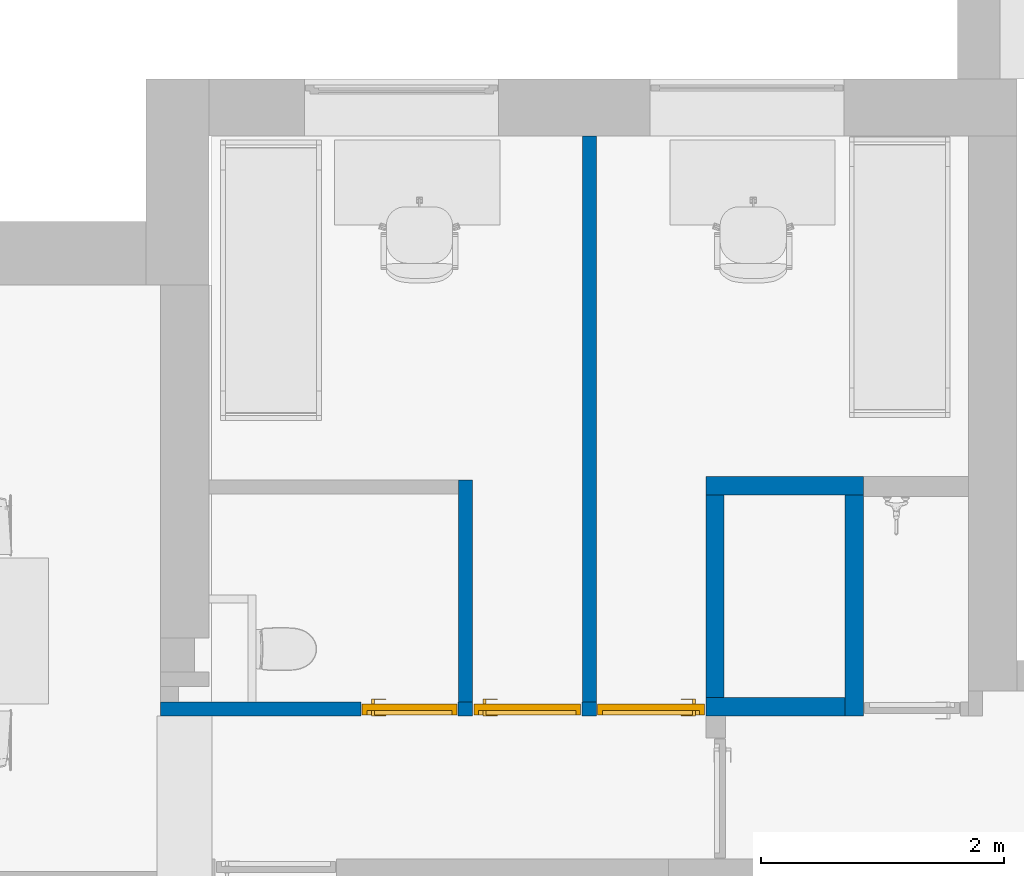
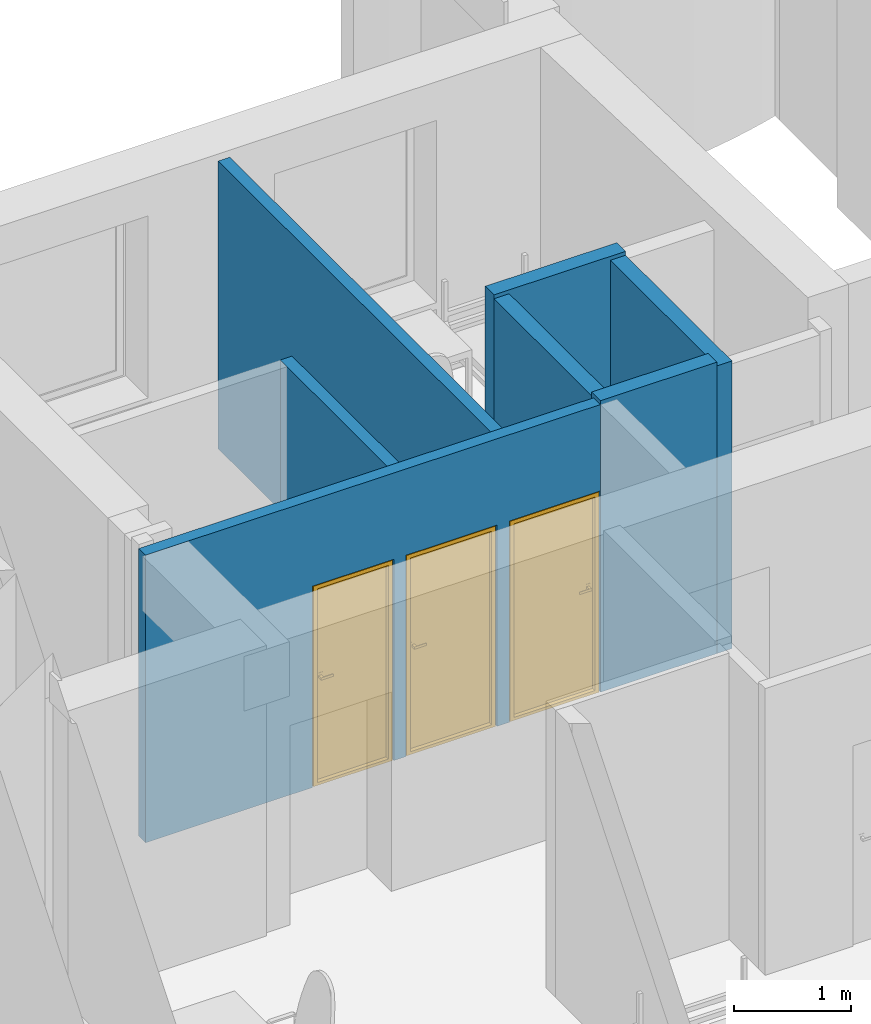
# One storey, part 5 of 46: 7 walls, 3 doors, 5 openings.
"""IFC2X3 building model written with IfcOpenShell, lengths in millimetres."""

from ifc_helpers import new_model, entity, si_unit, converted_unit, derived_unit, direction, frame, frame_2d, origin, place, context, subcontext, project, spatial, polyline, rectangle, extrude, clip, bounded_halfspace, faceted_brep, source, transform, mapped, material, material_list, layer, layer_set, layer_usage, type_object, type_shapes, element, fill, save


model = new_model("IFC2X3")

# Units and contexts
model_context = context("Model", 3, precision=0.01, world=origin(), true_north=direction((6.12303176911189e-17, 1.0)))
body_context = subcontext(model_context, "Body", "Model", "MODEL_VIEW")
ifc_project = project(units=[si_unit("LENGTHUNIT", "METRE", prefix="MILLI"), si_unit("AREAUNIT", "SQUARE_METRE"), si_unit("VOLUMEUNIT", "CUBIC_METRE"), converted_unit("PLANEANGLEUNIT", "DEGREE", entity("IfcRatioMeasure", 0.0174532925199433), si_unit("PLANEANGLEUNIT", "RADIAN"), dimensions=[0, 0, 0, 0, 0, 0, 0]), si_unit("MASSUNIT", "GRAM", prefix="KILO"), derived_unit("MASSDENSITYUNIT", [(si_unit("MASSUNIT", "GRAM", prefix="KILO"), 1), (si_unit("LENGTHUNIT", "METRE"), -3)]), si_unit("TIMEUNIT", "SECOND"), si_unit("FREQUENCYUNIT", "HERTZ"), si_unit("THERMODYNAMICTEMPERATUREUNIT", "DEGREE_CELSIUS"), derived_unit("THERMALTRANSMITTANCEUNIT", [(si_unit("MASSUNIT", "GRAM", prefix="KILO"), 1), (si_unit("THERMODYNAMICTEMPERATUREUNIT", "KELVIN"), -1), (si_unit("TIMEUNIT", "SECOND"), -3)]), derived_unit("VOLUMETRICFLOWRATEUNIT", [(si_unit("LENGTHUNIT", "METRE"), 3), (si_unit("TIMEUNIT", "SECOND"), -1)]), si_unit("ELECTRICCURRENTUNIT", "AMPERE"), si_unit("ELECTRICVOLTAGEUNIT", "VOLT"), si_unit("POWERUNIT", "WATT"), si_unit("FORCEUNIT", "NEWTON", prefix="KILO"), si_unit("ILLUMINANCEUNIT", "LUX"), si_unit("LUMINOUSFLUXUNIT", "LUMEN"), si_unit("LUMINOUSINTENSITYUNIT", "CANDELA"), derived_unit("USERDEFINED", [(si_unit("MASSUNIT", "GRAM", prefix="KILO"), -1), (si_unit("LENGTHUNIT", "METRE"), -2), (si_unit("TIMEUNIT", "SECOND"), 3), (si_unit("LUMINOUSFLUXUNIT", "LUMEN"), 1)]), derived_unit("LINEARVELOCITYUNIT", [(si_unit("LENGTHUNIT", "METRE"), 1), (si_unit("TIMEUNIT", "SECOND"), -1)]), si_unit("PRESSUREUNIT", "PASCAL"), derived_unit("USERDEFINED", [(si_unit("LENGTHUNIT", "METRE"), -2), (si_unit("MASSUNIT", "GRAM", prefix="KILO"), 1), (si_unit("TIMEUNIT", "SECOND"), -2)]), derived_unit("LINEARFORCEUNIT", [(si_unit("MASSUNIT", "GRAM", prefix="KILO"), 1), (si_unit("LENGTHUNIT", "METRE"), 1), (si_unit("TIMEUNIT", "SECOND"), -2), (si_unit("LENGTHUNIT", "METRE"), -1)]), derived_unit("PLANARFORCEUNIT", [(si_unit("MASSUNIT", "GRAM", prefix="KILO"), 1), (si_unit("LENGTHUNIT", "METRE"), 1), (si_unit("TIMEUNIT", "SECOND"), -2), (si_unit("LENGTHUNIT", "METRE"), -2)])], contexts=[model_context])

# Site, building, storey
site_placement = place(None, origin())
site = spatial("IfcSite", under=ifc_project, at=site_placement, Name="Default", CompositionType="ELEMENT")
building_placement = place(site_placement, origin())
building = spatial("IfcBuilding", under=site, at=building_placement, Name="SMA ARH", CompositionType="ELEMENT")
storey_placement = place(building_placement, frame((0.0, 0.0, 9910.0)))
storey = spatial("IfcBuildingStorey", under=building, at=storey_placement, Name="4 Korrus", CompositionType="ELEMENT", Elevation=9909.9999999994)

# Wall
ifc_material_1 = material(Name="EST. Müüritis. Väikeplokk. Kergkruusplokk")
ifc_layer_1 = layer(ifc_material_1, 150.0)
ifc_layer_set_1 = layer_set([ifc_layer_1], Name="Basic Wall:SS-02_ 150mm šahtide vahesein")
ifc_layer_usage_1 = layer_usage(ifc_layer_set_1, "AXIS2", "POSITIVE", -75.0)
wall_type_1 = type_object("IfcWallType", Name="Basic Wall:SS-02_ 150mm šahtide vahesein", PredefinedType="STANDARD", material=ifc_layer_set_1)
wall_1_placement = place(storey_placement, frame((6235.32130046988, 9595.0, 0.0)))
element("IfcWallStandardCase", 1, at=wall_1_placement, inside=storey, type_object=wall_type_1, material=ifc_layer_usage_1, Name="Basic Wall:SS-02_ 150mm šahtide vahesein", ObjectType="Basic Wall:SS-02_ 150mm šahtide vahesein", context=body_context, shape_type="SweptSolid", body=[
    extrude(rectangle(XDim=1298.40364972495, YDim=150.000000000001, at=frame_2d((649.201824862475, -4.9737991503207e-14), x_axis=(-1.0, 0.0))), origin(), (0.0, 0.0, 1.0), 3041.0500000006),
])

# Wall, opening
ifc_layer_usage_2 = layer_usage(ifc_layer_set_1, "AXIS2", "POSITIVE", -75.0)
wall_2_placement = place(storey_placement, frame((7458.72495019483, 9520.0, 0.0), z_axis=(0.0, 0.0, 1.0), x_axis=(0.0, -1.0, 0.0)))
wall_2 = element("IfcWallStandardCase", 2, at=wall_2_placement, inside=storey, type_object=wall_type_1, material=ifc_layer_usage_2, Name="Basic Wall:SS-02_ 150mm šahtide vahesein", ObjectType="Basic Wall:SS-02_ 150mm šahtide vahesein", context=body_context, shape_type="Clipping", body=[
    clip(extrude(rectangle(XDim=1819.99999999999, YDim=150.000000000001, at=frame_2d((909.999999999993, 1.13686837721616e-13), x_axis=(-1.0, 0.0))), origin(), (0.0, 0.0, 1.0), 3001.0500000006), bounded_halfspace(frame((0.0, -75.0, 3001.0500000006), z_axis=(0.0, 0.0, -1.0), x_axis=(-1.0, 0.0, 0.0)), True, frame((0.0, -75.0, 3001.0500000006)), polyline([(0.0, 0.0), (1820.0, 0.0), (1820.0, 150.0), (0.0, 150.0), (0.0, 0.0)]))),
])
opening_1_placement = place(wall_2_placement, origin())
element("IfcOpeningElement", 3, at=opening_1_placement, cuts=wall_2, Name="Basic Wall:SS-02_ 150mm šahtide vahesein", ObjectType="Opening", context=body_context, shape_type="SweptSolid", body=[
    extrude(rectangle(XDim=2099.99999999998, YDim=116.0, at=frame_2d((0.0, 1.02318153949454e-12), x_axis=(0.0, 1.0))), frame((1762.0, 75.0, 1050.0), z_axis=(0.0, 1.0, 0.0), x_axis=(1.0, 0.0, 0.0)), (0.0, 0.0, 1.0), 800.0),
])

ifc_layer_usage_3 = layer_usage(ifc_layer_set_1, "AXIS2", "POSITIVE", -75.0)
wall_3_placement = place(storey_placement, frame((7383.72495019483, 7775.0, 0.0), z_axis=(0.0, 0.0, 1.0), x_axis=(-1.0, 0.0, 0.0)))
wall_3 = element("IfcWallStandardCase", 4, at=wall_3_placement, inside=storey, type_object=wall_type_1, material=ifc_layer_usage_3, Name="Basic Wall:SS-02_ 150mm šahtide vahesein", ObjectType="Basic Wall:SS-02_ 150mm šahtide vahesein", context=body_context, shape_type="SweptSolid", body=[
    extrude(rectangle(XDim=1148.40364972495, YDim=150.000000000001, at=frame_2d((574.201824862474, 2.41584530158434e-13), x_axis=(-1.0, 0.0))), origin(), (0.0, 0.0, 1.0), 3041.0500000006),
])
opening_2_placement = place(wall_3_placement, origin())
element("IfcOpeningElement", 5, at=opening_2_placement, cuts=wall_3, Name="Basic Wall:SS-02_ 150mm šahtide vahesein", ObjectType="Opening", context=body_context, shape_type="SweptSolid", body=[
    extrude(rectangle(XDim=2099.99999999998, YDim=900.0, at=frame_2d((5.40012479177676e-13, -1.02318153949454e-12), x_axis=(0.0, 1.0))), frame((1598.40364972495, -1449.0, 1050.0), z_axis=(0.0, 1.0, 0.0), x_axis=(-1.0, 0.0, 0.0)), (0.0, 0.0, 1.0), 3048.0),
])

# Wall
ifc_layer_usage_4 = layer_usage(ifc_layer_set_1, "AXIS2", "POSITIVE", -75.0)
wall_4_placement = place(storey_placement, frame((6310.32130046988, 7850.0, 0.0), z_axis=(0.0, 0.0, 1.0), x_axis=(0.0, 1.0, 0.0)))
element("IfcWallStandardCase", 6, at=wall_4_placement, inside=storey, type_object=wall_type_1, material=ifc_layer_usage_4, Name="Basic Wall:SS-02_ 150mm šahtide vahesein", ObjectType="Basic Wall:SS-02_ 150mm šahtide vahesein", context=body_context, shape_type="Clipping", body=[
    clip(extrude(rectangle(XDim=1669.99999999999, YDim=150.000000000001, at=frame_2d((834.999999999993, 0.0), x_axis=(-1.0, 0.0))), origin(), (0.0, 0.0, 1.0), 3001.0500000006), bounded_halfspace(frame((0.0, -75.0, 3001.0500000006), z_axis=(0.0, 0.0, -1.0), x_axis=(1.0, 0.0, 0.0)), True, frame((0.0, -75.0, 3001.0500000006)), polyline([(0.0, 0.0), (1670.0, 0.0), (1670.0, 150.0), (0.0, 150.0), (0.0, 0.0)]))),
])

# Wall, openings, doors
ifc_material_2 = material(Name="EST. Ehitusplaat. Kipsplaat")
ifc_layer_2 = layer(ifc_material_2, 12.5)
ifc_layer_3 = layer(ifc_material_2, 12.5)
ifc_material_3 = material(Name="EST. Soojustus. Mineraalvill. Default")
ifc_layer_4 = layer(ifc_material_3, 66.0)
ifc_layer_5 = layer(ifc_material_2, 12.5)
ifc_layer_6 = layer(ifc_material_2, 12.5)
ifc_layer_set_2 = layer_set([ifc_layer_2, ifc_layer_3, ifc_layer_4, ifc_layer_5, ifc_layer_6], Name="Basic Wall:SS-05_Kips, 66mm metallkarkass")
ifc_layer_usage_5 = layer_usage(ifc_layer_set_2, "AXIS2", "NEGATIVE", 58.0)
wall_type_2 = type_object("IfcWallType", Name="Basic Wall:SS-05_Kips, 66mm metallkarkass", PredefinedType="STANDARD", material=ifc_layer_set_2)
wall_5_placement = place(storey_placement, frame((6235.32130046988, 7758.0, 0.0), z_axis=(0.0, 0.0, 1.0), x_axis=(-1.0, 0.0, 0.0)))
wall_5 = element("IfcWallStandardCase", 7, at=wall_5_placement, inside=storey, type_object=wall_type_2, material=ifc_layer_usage_5, Name="Basic Wall:SS-05_Kips, 66mm metallkarkass", ObjectType="Basic Wall:SS-05_Kips, 66mm metallkarkass", context=body_context, shape_type="SweptSolid", body=[
    extrude(rectangle(XDim=4490.32130046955, YDim=116.0, at=frame_2d((2245.16065023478, 0.0), x_axis=(-1.0, 0.0))), origin(), (0.0, 0.0, 1.0), 3001.0500000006),
])
opening_3_placement = place(wall_5_placement, frame((900.0, 58.0, 0.0)))
opening_3 = element("IfcOpeningElement", 8, at=opening_3_placement, cuts=wall_5, Name="SMA_D01, 1-poolne:SU-P-05 - 900x2100 TUBA:1", ObjectType="Opening", context=body_context, shape_type="SweptSolid", body=[
    extrude(rectangle(XDim=2099.99999999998, YDim=900.0, at=frame_2d((1049.99999999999, 450.0), x_axis=(1.0, 0.0))), frame((0.0, 0.0, 0.0), z_axis=(0.0, -1.0, 0.0), x_axis=(0.0, 0.0, 1.0)), (0.0, 0.0, 1.0), 116.0),
])
opening_4_placement = place(wall_5_placement, frame((1920.0, 58.0, 0.0)))
opening_4 = element("IfcOpeningElement", 9, at=opening_4_placement, cuts=wall_5, Name="SMA_D01, 1-poolne:SU-P-05 - 900x2100 TUBA:1", ObjectType="Opening", context=body_context, shape_type="SweptSolid", body=[
    extrude(rectangle(XDim=2099.99999999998, YDim=900.0, at=frame_2d((1049.99999999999, 450.0), x_axis=(1.0, 0.0))), frame((0.0, 0.0, 0.0), z_axis=(0.0, -1.0, 0.0), x_axis=(0.0, 0.0, 1.0)), (0.0, 0.0, 1.0), 116.0),
])
opening_5_placement = place(wall_5_placement, frame((2840.0, 58.0, 0.0)))
opening_5 = element("IfcOpeningElement", 10, at=opening_5_placement, cuts=wall_5, Name="SMA_D01, 1-poolne:SU-P-06 - 800x2100 DUŠŠ:1", ObjectType="Opening", context=body_context, shape_type="SweptSolid", body=[
    extrude(rectangle(XDim=2099.99999999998, YDim=800.0, at=frame_2d((1049.99999999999, 400.0), x_axis=(1.0, 0.0))), frame((0.0, 0.0, 0.0), z_axis=(0.0, -1.0, 0.0), x_axis=(0.0, 0.0, 1.0)), (0.0, 0.0, 1.0), 116.0),
])
ifc_material_4 = material(Name="EST. Metall. Alumiinium. Värvitud. RAL7023 (Concrete grey)")
ifc_material_5 = material(Name="<Unnamed>")
ifc_material_6 = material(Name="EST. Klaas. 3x. Default")
ifc_material_list_1 = material_list([ifc_material_4, ifc_material_5, ifc_material_4, ifc_material_5, ifc_material_5, ifc_material_6, ifc_material_4])
door_style_1 = type_object("IfcDoorStyle", Name="SMA_D01, 1-poolne:SU-P-05 - 900x2100 TUBA", ConstructionType="NOTDEFINED", OperationType="SINGLE_SWING_LEFT", ParameterTakesPrecedence=False, Sizeable=False, material=ifc_material_list_1)
shared_shape_1 = source(origin(), body_context, "Body", "Brep", [
    faceted_brep([(790.0, 6.0, 1112.5), (695.0, 6.0, 1112.5), (695.0, 1.0, 1112.5), (815.0, 1.0, 1112.5), (815.0, 44.0, 1112.5), (790.0, 44.0, 1112.5), (790.0, 6.0, 1087.5), (790.0, 44.0, 1087.5), (815.0, 44.0, 1087.5), (815.0, 1.0, 1087.5), (695.0, 1.0, 1087.5), (695.0, 6.0, 1087.5)], [[[0, 1, 2, 3, 4, 5]], [[6, 7, 8, 9, 10, 11]], [[5, 7, 6, 0]], [[4, 8, 7, 5]], [[3, 9, 8, 4]], [[2, 10, 9, 3]], [[1, 11, 10, 2]], [[0, 6, 11, 1]]]),
    faceted_brep([(777.500000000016, 44.0, 1137.5), (827.500000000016, 44.0, 1137.5), (827.500000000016, 46.0, 1137.5), (777.500000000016, 46.0, 1137.5), (777.500000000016, 44.0, 1017.5), (777.500000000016, 46.0, 1017.5), (827.500000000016, 46.0, 1017.5), (827.500000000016, 44.0, 1017.5)], [[[0, 1, 2, 3]], [[4, 5, 6, 7]], [[3, 5, 4, 0]], [[2, 6, 5, 3]], [[1, 7, 6, 2]], [[0, 4, 7, 1]]]),
    faceted_brep([(790.0, 136.0, 1112.5), (790.0, 98.0, 1112.5), (815.0, 98.0, 1112.5), (815.0, 141.0, 1112.5), (695.0, 141.0, 1112.5), (695.0, 136.0, 1112.5), (790.0, 136.0, 1087.5), (695.0, 136.0, 1087.5), (695.0, 141.0, 1087.5), (815.0, 141.0, 1087.5), (815.0, 98.0, 1087.5), (790.0, 98.0, 1087.5)], [[[0, 1, 2, 3, 4, 5]], [[6, 7, 8, 9, 10, 11]], [[1, 0, 6, 11]], [[2, 1, 11, 10]], [[3, 2, 10, 9]], [[4, 3, 9, 8]], [[5, 4, 8, 7]], [[0, 5, 7, 6]]]),
    faceted_brep([(777.500000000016, 98.0, 1137.5), (777.500000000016, 96.0, 1137.5), (827.500000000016, 96.0, 1137.5), (827.500000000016, 98.0, 1137.5), (777.500000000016, 98.0, 1017.5), (827.500000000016, 98.0, 1017.5), (827.500000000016, 96.0, 1017.5), (777.500000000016, 96.0, 1017.5)], [[[0, 1, 2, 3]], [[4, 5, 6, 7]], [[1, 0, 4, 7]], [[2, 1, 7, 6]], [[3, 2, 6, 5]], [[0, 3, 5, 4]]]),
    faceted_brep([(50.0, 6.0, 30.0), (50.0, 46.0, 30.0), (50.0, 46.0, 20.0), (50.0, 46.0, 0.0), (50.0, 6.0, 0.0), (850.0, 6.0, 30.0), (850.0, 6.0, 0.0), (850.0, 46.0, 0.0), (850.0, 46.0, 20.0), (850.0, 46.0, 30.0), (35.0, 46.0, 0.0), (35.0, 96.0, 0.0), (865.0, 96.0, 0.0), (865.0, 46.0, 0.0), (35.0, 96.0, 20.0), (35.0, 46.0, 20.0), (865.0, 96.0, 20.0), (865.0, 46.0, 20.0)], [[[0, 1, 2, 3, 4]], [[5, 6, 7, 8, 9]], [[4, 6, 5, 0]], [[3, 10, 11, 12, 13, 7, 6, 4]], [[9, 8, 2, 1]], [[0, 5, 9, 1]], [[14, 11, 10, 15]], [[16, 17, 13, 12]], [[15, 2, 8, 17, 16, 14]], [[10, 3, 2, 15]], [[14, 16, 12, 11]], [[17, 8, 7, 13]]]),
    faceted_brep([(10.0, 6.0, 0.0), (10.0, 96.0, 0.0), (35.0, 96.0, 0.0), (35.0, 46.0, 0.0), (50.0, 46.0, 0.0), (50.0, 6.0, 0.0), (50.0, 6.0, 2050.0), (850.0, 6.0, 2050.0), (850.0, 6.0, 0.0), (890.0, 6.0, 0.0), (890.0, 6.0, 2090.0), (10.0, 6.0, 2090.0), (50.0, 46.0, 2050.0), (35.0, 46.0, 2065.0), (865.0, 46.0, 2065.0), (865.0, 46.0, 0.0), (850.0, 46.0, 0.0), (850.0, 46.0, 2050.0), (35.0, 96.0, 2065.0), (10.0, 96.0, 2090.0), (890.0, 96.0, 2090.0), (890.0, 96.0, 0.0), (865.0, 96.0, 0.0), (865.0, 96.0, 2065.0)], [[[0, 1, 2, 3, 4, 5]], [[5, 6, 7, 8, 9, 10, 11, 0]], [[4, 12, 6, 5]], [[3, 13, 14, 15, 16, 17, 12, 4]], [[2, 18, 13, 3]], [[1, 19, 20, 21, 22, 23, 18, 2]], [[0, 11, 19, 1]], [[9, 21, 20, 10]], [[8, 16, 15, 22, 21, 9]], [[7, 17, 16, 8]], [[14, 23, 22, 15]], [[6, 12, 17, 7]], [[13, 18, 23, 14]], [[10, 20, 19, 11]]]),
    faceted_brep([(865.0, 46.0, 2065.0), (35.0, 46.0, 2065.0), (35.0, 46.0, 20.0), (865.0, 46.0, 20.0), (865.0, 96.0, 2065.0), (865.0, 96.0, 20.0), (35.0, 96.0, 20.0), (35.0, 96.0, 2065.0)], [[[0, 1, 2, 3]], [[4, 5, 6, 7]], [[3, 5, 4, 0]], [[2, 6, 5, 3]], [[1, 7, 6, 2]], [[0, 4, 7, 1]]]),
])
type_shapes(door_style_1, [shared_shape_1])
door_1_placement = place(opening_3_placement, frame((0.0, 0.0, 0.0), z_axis=(0.0, 0.0, 1.0), x_axis=(-1.0, 0.0, 0.0)))
door_1 = element("IfcDoor", 11, at=door_1_placement, inside=storey, type_object=door_style_1, material=ifc_material_4, Name="SMA_D01, 1-poolne:SU-P-05 - 900x2100 TUBA", ObjectType="SMA_D01, 1-poolne:SU-P-05 - 900x2100 TUBA", OverallHeight=2099.99999999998, OverallWidth=900.0, context=body_context, shape_type="MappedRepresentation", body=[
    mapped(shared_shape_1, transform((0.0, 0.0, 0.0), scale=1.0)),
])
fill(opening_3, door_1)
ifc_material_list_2 = material_list([ifc_material_5, ifc_material_6, ifc_material_5, ifc_material_4, ifc_material_4, ifc_material_4, ifc_material_5])
door_style_2 = type_object("IfcDoorStyle", Name="SMA_D01, 1-poolne:SU-P-05 - 900x2100 TUBA", ConstructionType="NOTDEFINED", OperationType="SINGLE_SWING_RIGHT", ParameterTakesPrecedence=False, Sizeable=False, material=ifc_material_list_2)
shared_shape_2 = source(origin(), body_context, "Body", "Brep", [
    faceted_brep([(110.0, 6.0, 1112.5), (110.0, 44.0, 1112.5), (85.0, 44.0, 1112.5), (85.0, 1.0, 1112.5), (205.0, 1.0, 1112.5), (205.0, 6.0, 1112.5), (110.0, 6.0, 1087.5), (205.0, 6.0, 1087.5), (205.0, 1.0, 1087.5), (85.0, 1.0, 1087.5), (85.0, 44.0, 1087.5), (110.0, 44.0, 1087.5)], [[[0, 1, 2, 3, 4, 5]], [[6, 7, 8, 9, 10, 11]], [[1, 0, 6, 11]], [[2, 1, 11, 10]], [[3, 2, 10, 9]], [[4, 3, 9, 8]], [[5, 4, 8, 7]], [[0, 5, 7, 6]]]),
    faceted_brep([(122.5, 44.0, 1137.5), (122.5, 46.0, 1137.5), (72.5000000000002, 46.0, 1137.5), (72.5000000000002, 44.0, 1137.5), (122.5, 44.0, 1017.5), (72.5000000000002, 44.0, 1017.5), (72.5000000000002, 46.0, 1017.5), (122.5, 46.0, 1017.5)], [[[0, 1, 2, 3]], [[4, 5, 6, 7]], [[1, 0, 4, 7]], [[2, 1, 7, 6]], [[3, 2, 6, 5]], [[0, 3, 5, 4]]]),
    faceted_brep([(110.0, 136.0, 1112.5), (205.0, 136.0, 1112.5), (205.0, 141.0, 1112.5), (85.0, 141.0, 1112.5), (85.0, 98.0, 1112.5), (110.0, 98.0, 1112.5), (110.0, 136.0, 1087.5), (110.0, 98.0, 1087.5), (85.0, 98.0, 1087.5), (85.0, 141.0, 1087.5), (205.0, 141.0, 1087.5), (205.0, 136.0, 1087.5)], [[[0, 1, 2, 3, 4, 5]], [[6, 7, 8, 9, 10, 11]], [[5, 7, 6, 0]], [[4, 8, 7, 5]], [[3, 9, 8, 4]], [[2, 10, 9, 3]], [[1, 11, 10, 2]], [[0, 6, 11, 1]]]),
    faceted_brep([(122.5, 98.0, 1137.5), (72.5000000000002, 98.0, 1137.5), (72.5000000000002, 96.0, 1137.5), (122.5, 96.0, 1137.5), (122.5, 98.0, 1017.5), (122.5, 96.0, 1017.5), (72.5000000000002, 96.0, 1017.5), (72.5000000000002, 98.0, 1017.5)], [[[0, 1, 2, 3]], [[4, 5, 6, 7]], [[3, 5, 4, 0]], [[2, 6, 5, 3]], [[1, 7, 6, 2]], [[0, 4, 7, 1]]]),
    faceted_brep([(850.0, 6.0, 30.0), (850.0, 6.0, 0.0), (850.0, 46.0, 0.0), (850.0, 46.0, 20.0), (850.0, 46.0, 30.0), (50.0, 6.0, 30.0), (50.0, 46.0, 30.0), (50.0, 46.0, 20.0), (50.0, 46.0, 0.0), (50.0, 6.0, 0.0), (35.0, 46.0, 0.0), (35.0, 96.0, 0.0), (865.0, 96.0, 0.0), (865.0, 46.0, 0.0), (865.0, 96.0, 20.0), (865.0, 46.0, 20.0), (35.0, 96.0, 20.0), (35.0, 46.0, 20.0)], [[[0, 1, 2, 3, 4]], [[5, 6, 7, 8, 9]], [[1, 0, 5, 9]], [[2, 1, 9, 8, 10, 11, 12, 13]], [[6, 4, 3, 7]], [[0, 4, 6, 5]], [[14, 15, 13, 12]], [[16, 11, 10, 17]], [[15, 14, 16, 17, 7, 3]], [[13, 15, 3, 2]], [[14, 12, 11, 16]], [[17, 10, 8, 7]]]),
    faceted_brep([(890.0, 6.0, 0.0), (850.0, 6.0, 0.0), (850.0, 46.0, 0.0), (865.0, 46.0, 0.0), (865.0, 96.0, 0.0), (890.0, 96.0, 0.0), (890.0, 6.0, 2090.0), (10.0, 6.0, 2090.0), (10.0, 6.0, 0.0), (50.0, 6.0, 0.0), (50.0, 6.0, 2050.0), (850.0, 6.0, 2050.0), (850.0, 46.0, 2050.0), (50.0, 46.0, 2050.0), (50.0, 46.0, 0.0), (35.0, 46.0, 0.0), (35.0, 46.0, 2065.0), (865.0, 46.0, 2065.0), (865.0, 96.0, 2065.0), (35.0, 96.0, 2065.0), (35.0, 96.0, 0.0), (10.0, 96.0, 0.0), (10.0, 96.0, 2090.0), (890.0, 96.0, 2090.0)], [[[0, 1, 2, 3, 4, 5]], [[1, 0, 6, 7, 8, 9, 10, 11]], [[2, 1, 11, 12]], [[3, 2, 12, 13, 14, 15, 16, 17]], [[4, 3, 17, 18]], [[5, 4, 18, 19, 20, 21, 22, 23]], [[0, 5, 23, 6]], [[8, 7, 22, 21]], [[9, 8, 21, 20, 15, 14]], [[10, 9, 14, 13]], [[16, 15, 20, 19]], [[11, 10, 13, 12]], [[17, 16, 19, 18]], [[7, 6, 23, 22]]]),
    faceted_brep([(35.0, 46.0, 2065.0), (35.0, 46.0, 20.0), (865.0, 46.0, 20.0), (865.0, 46.0, 2065.0), (35.0, 96.0, 2065.0), (865.0, 96.0, 2065.0), (865.0, 96.0, 20.0), (35.0, 96.0, 20.0)], [[[0, 1, 2, 3]], [[4, 5, 6, 7]], [[1, 0, 4, 7]], [[2, 1, 7, 6]], [[3, 2, 6, 5]], [[0, 3, 5, 4]]]),
])
type_shapes(door_style_2, [shared_shape_2])
door_2_placement = place(opening_4_placement, frame((0.0, 0.0, 0.0), z_axis=(0.0, 0.0, 1.0), x_axis=(-1.0, 0.0, 0.0)))
door_2 = element("IfcDoor", 12, at=door_2_placement, inside=storey, type_object=door_style_2, material=ifc_material_4, Name="SMA_D01, 1-poolne:SU-P-05 - 900x2100 TUBA", ObjectType="SMA_D01, 1-poolne:SU-P-05 - 900x2100 TUBA", OverallHeight=2099.99999999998, OverallWidth=900.0, context=body_context, shape_type="MappedRepresentation", body=[
    mapped(shared_shape_2, transform((0.0, 0.0, 0.0), scale=1.0)),
])
fill(opening_4, door_2)
ifc_material_list_3 = material_list([ifc_material_4, ifc_material_6, ifc_material_5, ifc_material_5, ifc_material_4, ifc_material_5, ifc_material_4])
door_style_3 = type_object("IfcDoorStyle", Name="SMA_D01, 1-poolne:SU-P-06 - 800x2100 DUŠŠ", ConstructionType="NOTDEFINED", OperationType="NOTDEFINED", ParameterTakesPrecedence=False, Sizeable=False, material=ifc_material_list_3)
shared_shape_3 = source(origin(), body_context, "Body", "Brep", [
    faceted_brep([(110.0, 6.0, 1112.5), (110.0, 44.0, 1112.5), (85.0, 44.0, 1112.5), (85.0, 1.0, 1112.5), (205.0, 1.0, 1112.5), (205.0, 6.0, 1112.5), (110.0, 6.0, 1087.5), (205.0, 6.0, 1087.5), (205.0, 1.0, 1087.5), (85.0, 1.0, 1087.5), (85.0, 44.0, 1087.5), (110.0, 44.0, 1087.5)], [[[0, 1, 2, 3, 4, 5]], [[6, 7, 8, 9, 10, 11]], [[1, 0, 6, 11]], [[2, 1, 11, 10]], [[3, 2, 10, 9]], [[4, 3, 9, 8]], [[5, 4, 8, 7]], [[0, 5, 7, 6]]]),
    faceted_brep([(122.5, 44.0, 1137.5), (122.5, 46.0, 1137.5), (72.4999999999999, 46.0, 1137.5), (72.4999999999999, 44.0, 1137.5), (122.5, 44.0, 1017.5), (72.4999999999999, 44.0, 1017.5), (72.4999999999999, 46.0, 1017.5), (122.5, 46.0, 1017.5)], [[[0, 1, 2, 3]], [[4, 5, 6, 7]], [[1, 0, 4, 7]], [[2, 1, 7, 6]], [[3, 2, 6, 5]], [[0, 3, 5, 4]]]),
    faceted_brep([(110.0, 136.0, 1112.5), (205.0, 136.0, 1112.5), (205.0, 141.0, 1112.5), (85.0, 141.0, 1112.5), (85.0, 98.0, 1112.5), (110.0, 98.0, 1112.5), (110.0, 136.0, 1087.5), (110.0, 98.0, 1087.5), (85.0, 98.0, 1087.5), (85.0, 141.0, 1087.5), (205.0, 141.0, 1087.5), (205.0, 136.0, 1087.5)], [[[0, 1, 2, 3, 4, 5]], [[6, 7, 8, 9, 10, 11]], [[5, 7, 6, 0]], [[4, 8, 7, 5]], [[3, 9, 8, 4]], [[2, 10, 9, 3]], [[1, 11, 10, 2]], [[0, 6, 11, 1]]]),
    faceted_brep([(122.5, 98.0, 1137.5), (72.4999999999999, 98.0, 1137.5), (72.4999999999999, 96.0, 1137.5), (122.5, 96.0, 1137.5), (122.5, 98.0, 1017.5), (122.5, 96.0, 1017.5), (72.4999999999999, 96.0, 1017.5), (72.4999999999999, 98.0, 1017.5)], [[[0, 1, 2, 3]], [[4, 5, 6, 7]], [[3, 5, 4, 0]], [[2, 6, 5, 3]], [[1, 7, 6, 2]], [[0, 4, 7, 1]]]),
    faceted_brep([(750.0, 6.0, 30.0), (750.0, 6.0, 0.0), (750.0, 46.0, 0.0), (750.0, 46.0, 20.0), (750.0, 46.0, 30.0), (50.0, 6.0, 30.0), (50.0, 46.0, 30.0), (50.0, 46.0, 20.0), (50.0, 46.0, 0.0), (50.0, 6.0, 0.0), (35.0, 46.0, 0.0), (35.0, 96.0, 0.0), (765.0, 96.0, 0.0), (765.0, 46.0, 0.0), (765.0, 96.0, 20.0), (765.0, 46.0, 20.0), (35.0, 96.0, 20.0), (35.0, 46.0, 20.0)], [[[0, 1, 2, 3, 4]], [[5, 6, 7, 8, 9]], [[1, 0, 5, 9]], [[2, 1, 9, 8, 10, 11, 12, 13]], [[6, 4, 3, 7]], [[0, 4, 6, 5]], [[14, 15, 13, 12]], [[16, 11, 10, 17]], [[15, 14, 16, 17, 7, 3]], [[13, 15, 3, 2]], [[14, 12, 11, 16]], [[17, 10, 8, 7]]]),
    faceted_brep([(790.0, 6.0, 0.0), (750.0, 6.0, 0.0), (750.0, 46.0, 0.0), (765.0, 46.0, 0.0), (765.0, 96.0, 0.0), (790.0, 96.0, 0.0), (790.0, 6.0, 2090.0), (10.0, 6.0, 2090.0), (10.0, 6.0, 0.0), (50.0, 6.0, 0.0), (50.0, 6.0, 2050.0), (750.0, 6.0, 2050.0), (750.0, 46.0, 2050.0), (50.0, 46.0, 2050.0), (50.0, 46.0, 0.0), (35.0, 46.0, 0.0), (35.0, 46.0, 2065.0), (765.0, 46.0, 2065.0), (765.0, 96.0, 2065.0), (35.0, 96.0, 2065.0), (35.0, 96.0, 0.0), (10.0, 96.0, 0.0), (10.0, 96.0, 2090.0), (790.0, 96.0, 2090.0)], [[[0, 1, 2, 3, 4, 5]], [[1, 0, 6, 7, 8, 9, 10, 11]], [[2, 1, 11, 12]], [[3, 2, 12, 13, 14, 15, 16, 17]], [[4, 3, 17, 18]], [[5, 4, 18, 19, 20, 21, 22, 23]], [[0, 5, 23, 6]], [[8, 7, 22, 21]], [[9, 8, 21, 20, 15, 14]], [[10, 9, 14, 13]], [[16, 15, 20, 19]], [[11, 10, 13, 12]], [[17, 16, 19, 18]], [[7, 6, 23, 22]]]),
    faceted_brep([(35.0, 46.0, 2065.0), (35.0, 46.0, 20.0), (765.0, 46.0, 20.0), (765.0, 46.0, 2065.0), (35.0, 96.0, 2065.0), (765.0, 96.0, 2065.0), (765.0, 96.0, 20.0), (35.0, 96.0, 20.0)], [[[0, 1, 2, 3]], [[4, 5, 6, 7]], [[1, 0, 4, 7]], [[2, 1, 7, 6]], [[3, 2, 6, 5]], [[0, 3, 5, 4]]]),
])
type_shapes(door_style_3, [shared_shape_3])
door_3_placement = place(opening_5_placement, frame((0.0, 0.0, 0.0), z_axis=(0.0, 0.0, 1.0), x_axis=(-1.0, 0.0, 0.0)))
door_3 = element("IfcDoor", 13, at=door_3_placement, inside=storey, type_object=door_style_3, material=ifc_material_4, Name="SMA_D01, 1-poolne:SU-P-06 - 800x2100 DUŠŠ", ObjectType="SMA_D01, 1-poolne:SU-P-06 - 800x2100 DUŠŠ", OverallHeight=2099.99999999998, OverallWidth=800.0, context=body_context, shape_type="MappedRepresentation", body=[
    mapped(shared_shape_3, transform((0.0, 0.0, 0.0), scale=1.0)),
])
fill(opening_5, door_3)

# Walls
ifc_layer_usage_6 = layer_usage(ifc_layer_set_2, "AXIS2", "NEGATIVE", 58.0)
wall_6_placement = place(storey_placement, frame((4255.32130046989, 9643.50000000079, 0.0), z_axis=(0.0, 0.0, 1.0), x_axis=(0.0, -1.0, 0.0)))
element("IfcWallStandardCase", 14, at=wall_6_placement, inside=storey, type_object=wall_type_2, material=ifc_layer_usage_6, Name="Basic Wall:SS-05_Kips, 66mm metallkarkass", ObjectType="Basic Wall:SS-05_Kips, 66mm metallkarkass", context=body_context, shape_type="Clipping", body=[
    clip(extrude(rectangle(XDim=1827.49999999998, YDim=116.0, at=frame_2d((913.749999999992, 6.75015598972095e-14), x_axis=(-1.0, 0.0))), origin(), (0.0, 0.0, 1.0), 3001.0500000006), bounded_halfspace(frame((0.0, -58.0, 3001.0500000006), z_axis=(0.0, 0.0, -1.0), x_axis=(-1.0, 0.0, 0.0)), True, frame((0.0, -58.0, 3001.0500000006)), polyline([(0.0, 0.0), (116.0, 0.0), (1827.49999999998, 0.0), (1827.49999999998, 116.0), (0.0, 116.0), (0.0, 0.0)]))),
])
ifc_layer_usage_7 = layer_usage(ifc_layer_set_2, "AXIS2", "NEGATIVE", 58.0)
wall_7_placement = place(storey_placement, frame((5277.32130046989, 12476.2030428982, 0.0), z_axis=(0.0, 0.0, 1.0), x_axis=(0.0, -1.0, 0.0)))
element("IfcWallStandardCase", 15, at=wall_7_placement, inside=storey, type_object=wall_type_2, material=ifc_layer_usage_7, Name="Basic Wall:SS-05_Kips, 66mm metallkarkass", ObjectType="Basic Wall:SS-05_Kips, 66mm metallkarkass", context=body_context, shape_type="Clipping", body=[
    clip(extrude(rectangle(XDim=4660.20304289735, YDim=116.0, at=frame_2d((2330.10152144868, -4.9737991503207e-14), x_axis=(-1.0, 0.0))), origin(), (0.0, 0.0, 1.0), 3001.0500000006), bounded_halfspace(frame((0.0, -58.0, 3001.0500000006), z_axis=(0.0, 0.0, -1.0), x_axis=(-1.0, 0.0, 0.0)), True, frame((0.0, -58.0, 3001.0500000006)), polyline([(0.0, 0.0), (4660.20304289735, 0.0), (4660.20304289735, 116.0), (0.0, 116.0), (0.0, 0.0)]))),
])

save(model, "model.ifc")
